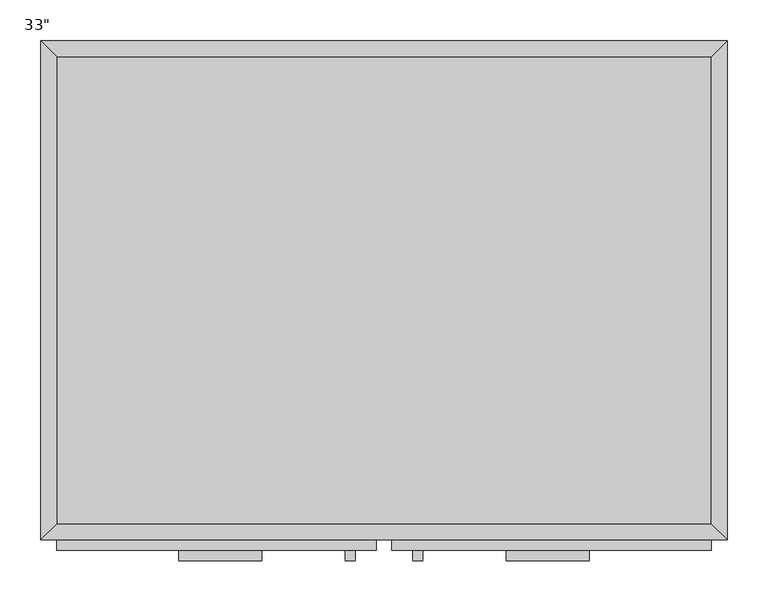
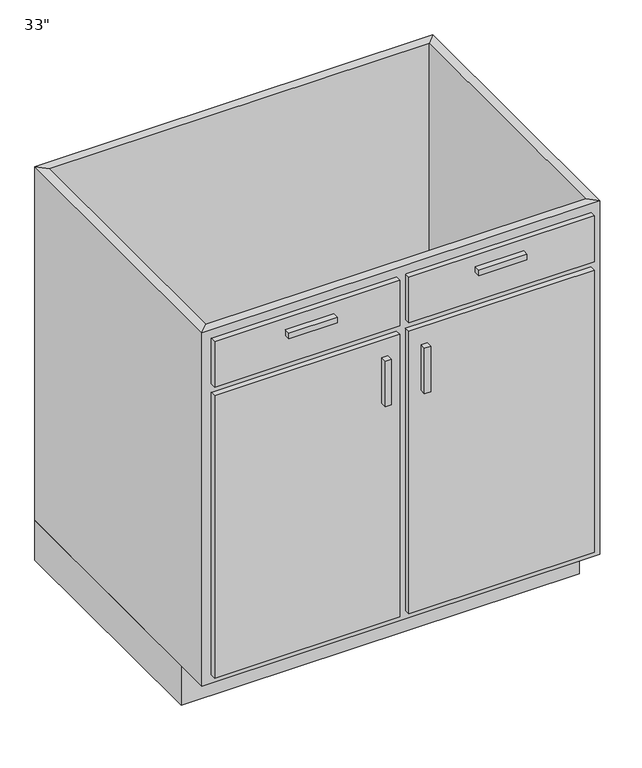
"""IFC4 building model written with IfcOpenShell, lengths in millimetres: furniture geometry."""

from ifc_helpers import new_model, si_unit, frame, origin, origin_with_axes, place, context, project, spatial, polyline, outline, extrude, faceted_brep, source, transform, mapped, element, save


def furniture_9c6ca97c(model_context):
    return source(origin(), model_context, "Body", "SolidModel", [
        extrude(outline(polyline([(-130.4872951, -635.0), (-232.0872951, -635.0), (-232.0872951, -622.3), (-130.4872951, -622.3), (-130.4872951, -635.0)])), frame((0.0, 0.0, 819.15), z_axis=(0.0, 0.0, 1.0), x_axis=(1.0, 0.0, 0.0)), (0.0, 0.0, 1.0), 12.7),
        extrude(outline(polyline([(269.5627049, -635.0), (167.9627049, -635.0), (167.9627049, -622.3), (269.5627049, -622.3), (269.5627049, -635.0)])), frame((0.0, 0.0, 819.15), z_axis=(0.0, 0.0, 1.0), x_axis=(1.0, 0.0, 0.0)), (0.0, 0.0, 1.0), 12.7),
        extrude(outline(polyline([(-16.1872951, -635.0), (-28.8872951, -635.0), (-28.8872951, -622.3), (-16.1872951, -622.3), (-16.1872951, -635.0)])), frame((0.0, 0.0, 596.9), z_axis=(0.0, 0.0, 1.0), x_axis=(1.0, 0.0, 0.0)), (0.0, 0.0, 1.0), 101.6),
        extrude(outline(polyline([(66.3627049, -635.0), (53.6627049, -635.0), (53.6627049, -622.3), (66.3627049, -622.3), (66.3627049, -635.0)])), frame((0.0, 0.0, 596.9), z_axis=(0.0, 0.0, 1.0), x_axis=(1.0, 0.0, 0.0)), (0.0, 0.0, 1.0), 101.6),
        extrude(outline(polyline([(418.7877049, -19.05), (418.7877049, -590.55), (-381.3122951, -590.55), (-381.3122951, -19.05), (418.7877049, -19.05)])), frame((0.0, 0.0, 88.9), z_axis=(0.0, 0.0, 1.0), x_axis=(1.0, 0.0, 0.0)), (0.0, 0.0, 1.0), 19.05),
        faceted_brep([(418.7877049, -590.55, 876.3), (418.7877049, -590.55, 88.9), (-381.3122951, -590.55, 88.9), (-381.3122951, -590.55, 876.3), (437.8377049, -609.6, 876.3), (-400.3622951, -609.6, 876.3), (437.8377049, -609.6, 88.9), (-400.3622951, -609.6, 88.9), (-381.3122951, -19.05, 88.9), (-381.3122951, -19.05, 876.3), (-400.3622951, 0.0, 876.3), (-400.3622951, 0.0, 88.9), (418.7877049, -19.05, 88.9), (418.7877049, -19.05, 876.3), (437.8377049, 0.0, 876.3), (437.8377049, 0.0, 88.9)], [[[0, 1, 2, 3]], [[4, 0, 3, 5]], [[6, 4, 5, 7]], [[1, 6, 7, 2]], [[3, 2, 8, 9]], [[5, 3, 9, 10]], [[7, 5, 10, 11]], [[2, 7, 11, 8]], [[9, 8, 12, 13]], [[10, 9, 13, 14]], [[11, 10, 14, 15]], [[8, 11, 15, 12]], [[13, 12, 1, 0]], [[14, 13, 0, 4]], [[15, 14, 4, 6]], [[12, 15, 6, 1]]]),
        extrude(outline(polyline([(437.8377049, 0.0), (437.8377049, -533.4), (-400.3622951, -533.4), (-400.3622951, 0.0), (437.8377049, 0.0)])), origin_with_axes(), (0.0, 0.0, 1.0), 88.9),
        extrude(outline(polyline([(9.2127049, -622.3), (-381.3122951, -622.3), (-381.3122951, -609.6), (9.2127049, -609.6), (9.2127049, -622.3)])), frame((0.0, 0.0, 755.65), z_axis=(0.0, 0.0, 1.0), x_axis=(1.0, 0.0, 0.0)), (0.0, 0.0, 1.0), 101.6),
        extrude(outline(polyline([(418.7877049, -622.3), (28.2627049, -622.3), (28.2627049, -609.6), (418.7877049, -609.6), (418.7877049, -622.3)])), frame((0.0, 0.0, 755.65), z_axis=(0.0, 0.0, 1.0), x_axis=(1.0, 0.0, 0.0)), (0.0, 0.0, 1.0), 101.6),
        extrude(outline(polyline([(9.2127049, -622.3), (-381.3122951, -622.3), (-381.3122951, -609.6), (9.2127049, -609.6), (9.2127049, -622.3)])), frame((0.0, 0.0, 107.95), z_axis=(0.0, 0.0, 1.0), x_axis=(1.0, 0.0, 0.0)), (0.0, 0.0, 1.0), 628.65),
        extrude(outline(polyline([(418.7877049, -622.3), (28.2627049, -622.3), (28.2627049, -609.6), (418.7877049, -609.6), (418.7877049, -622.3)])), frame((0.0, 0.0, 107.95), z_axis=(0.0, 0.0, 1.0), x_axis=(1.0, 0.0, 0.0)), (0.0, 0.0, 1.0), 628.65),
    ])


if __name__ == "__main__":
    model = new_model("IFC4")
    model_context = context("Model", 3, world=origin())
    ifc_project = project(units=[si_unit("LENGTHUNIT", "METRE", prefix="MILLI")], contexts=[model_context])
    site = spatial("IfcSite", under=ifc_project)
    building = spatial("IfcBuilding", under=site)
    placement = place(None, origin())
    furniture_shape = furniture_9c6ca97c(model_context)
    element("IfcFurniture", 1, ObjectType="Base Cabinet-Double Door & 2 Drawer : 33\"", at=placement, inside=building, context=model_context, shape_type="MappedRepresentation", body=[
        mapped(furniture_shape, transform((0.0, 0.0, 0.0), x_axis=(1.0, 0.0, 0.0), y_axis=(0.0, 1.0, 0.0), z_axis=(0.0, 0.0, 1.0))),
    ])
    save(model, "model.ifc")
